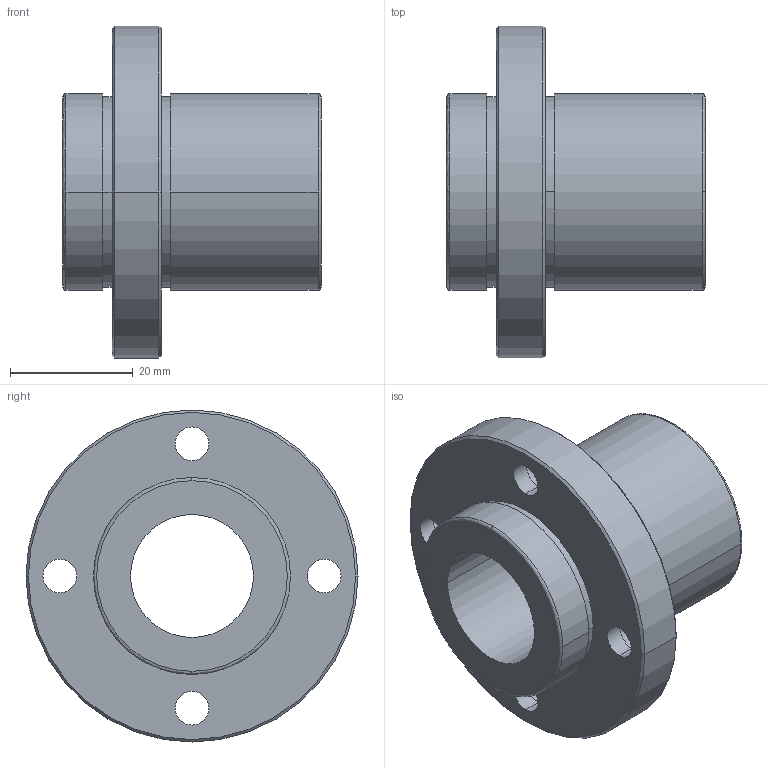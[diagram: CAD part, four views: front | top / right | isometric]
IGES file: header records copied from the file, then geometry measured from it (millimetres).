
Start section: 3D InterOp IGES (Version 21 0 1), Spatial Corp. Copyright (c) 1999-2007.
Global section: file name: NFID-20VUU.igs; native system: Spatial Corp.; preprocessor: 3D InterOp GENERIC/IGES 3.0; author: Noname; organization: Noname; date: 20220308.111845; units: millimetre
Bounding box: 42 x 54 x 54 mm (x, y, z)
Surface area: 12018.7 mm2 (no closed solid volume)
Topology: 0 solids, 0 shells, 46 faces, 208 edges, 208 vertices
Faces by surface type: revolution 36, extrusion 10
